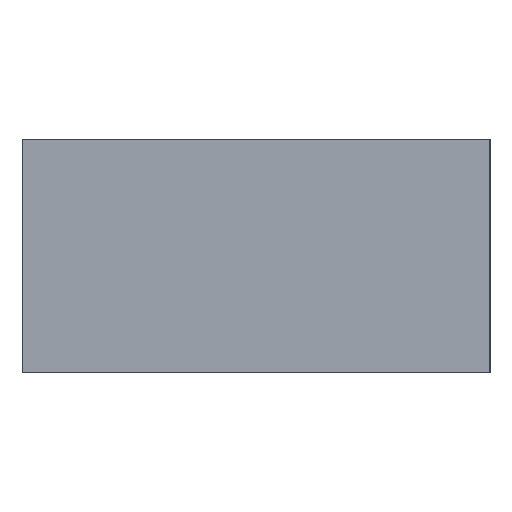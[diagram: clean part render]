
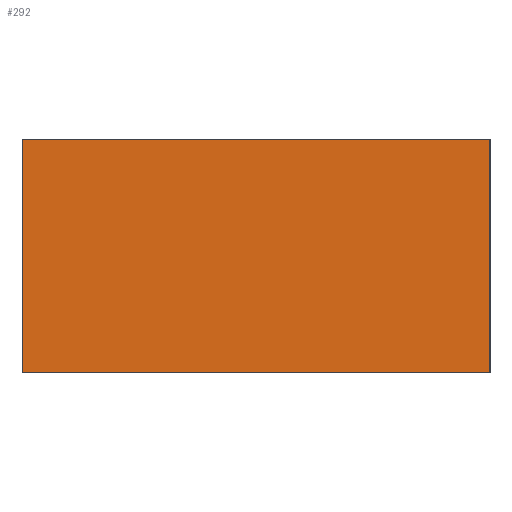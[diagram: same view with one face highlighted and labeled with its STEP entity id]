
A CAD part, left-side view. The second image highlights one B-rep face of the part: STEP entity #292.
In plain terms, the highlighted planar face has unit normal (-1, 0, 0).
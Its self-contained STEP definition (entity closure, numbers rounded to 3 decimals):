
#29 = LINE ( 'NONE', #35, #490 ) ;
#35 = CARTESIAN_POINT ( 'NONE',  ( -54., -50., 50. ) ) ;
#37 = CARTESIAN_POINT ( 'NONE',  ( -54., 50., 0. ) ) ;
#44 = EDGE_CURVE ( 'NONE', #657, #418, #29, .T. ) ;
#101 = VECTOR ( 'NONE', #394, 1000. ) ;
#110 = VERTEX_POINT ( 'NONE', #37 ) ;
#120 = EDGE_CURVE ( 'NONE', #653, #110, #130, .T. ) ;
#130 = LINE ( 'NONE', #390, #101 ) ;
#132 = FACE_OUTER_BOUND ( 'NONE', #141, .T. ) ;
#141 = EDGE_LOOP ( 'NONE', ( #365, #411, #228, #477 ) ) ;
#190 = EDGE_CURVE ( 'NONE', #653, #657, #296, .T. ) ;
#193 = CARTESIAN_POINT ( 'NONE',  ( -54., 50., 50. ) ) ;
#228 = ORIENTED_EDGE ( 'NONE', *, *, #190, .F. ) ;
#237 = DIRECTION ( 'NONE',  ( 1., 0., 0. ) ) ;
#247 = AXIS2_PLACEMENT_3D ( 'NONE', #598, #237, #601 ) ;
#254 = VECTOR ( 'NONE', #498, 1000. ) ;
#292 = ADVANCED_FACE ( 'NONE', ( #132 ), #382, .F. ) ;
#296 = LINE ( 'NONE', #193, #254 ) ;
#298 = LINE ( 'NONE', #520, #381 ) ;
#338 = DIRECTION ( 'NONE',  ( 0., 0., -1. ) ) ;
#365 = ORIENTED_EDGE ( 'NONE', *, *, #619, .T. ) ;
#381 = VECTOR ( 'NONE', #661, 1000. ) ;
#382 = PLANE ( 'NONE',  #247 ) ;
#390 = CARTESIAN_POINT ( 'NONE',  ( -54., 50., 50. ) ) ;
#394 = DIRECTION ( 'NONE',  ( 0., 0., -1. ) ) ;
#411 = ORIENTED_EDGE ( 'NONE', *, *, #44, .F. ) ;
#418 = VERTEX_POINT ( 'NONE', #635 ) ;
#462 = CARTESIAN_POINT ( 'NONE',  ( -54., -50., 50. ) ) ;
#477 = ORIENTED_EDGE ( 'NONE', *, *, #120, .T. ) ;
#490 = VECTOR ( 'NONE', #338, 1000. ) ;
#498 = DIRECTION ( 'NONE',  ( 0., -1., 0. ) ) ;
#509 = CARTESIAN_POINT ( 'NONE',  ( -54., 50., 50. ) ) ;
#520 = CARTESIAN_POINT ( 'NONE',  ( -54., 50., 0. ) ) ;
#598 = CARTESIAN_POINT ( 'NONE',  ( -54., 50., 50. ) ) ;
#601 = DIRECTION ( 'NONE',  ( 0., 0., -1. ) ) ;
#619 = EDGE_CURVE ( 'NONE', #110, #418, #298, .T. ) ;
#635 = CARTESIAN_POINT ( 'NONE',  ( -54., -50., 0. ) ) ;
#653 = VERTEX_POINT ( 'NONE', #509 ) ;
#657 = VERTEX_POINT ( 'NONE', #462 ) ;
#661 = DIRECTION ( 'NONE',  ( 0., -1., 0. ) ) ;
